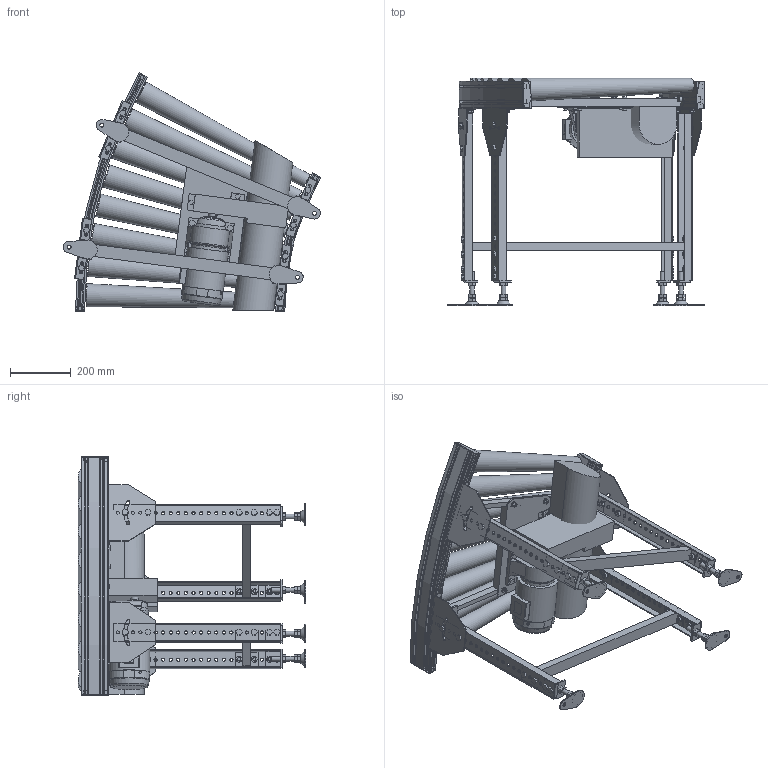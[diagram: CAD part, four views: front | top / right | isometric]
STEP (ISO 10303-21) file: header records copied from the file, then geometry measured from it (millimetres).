
FILE_DESCRIPTION( (''), '2;1');
FILE_NAME ('WEB-MCD1-50-630-75-30°-C9.stp','2026-06-19T11:08:04',(''),(''),'spGate 21.9.5 (****-****-****-****)','','');
FILE_SCHEMA (('AUTOMOTIVE_DESIGN'));
Length unit declared in the file: millimetre
Products named in the file (29): WEB-MCD1-50-630-75-30_-C9; TEMP_X_T-prt0; TEMP_X_T-prt1; TEMP_X_T-prt2; TEMP_X_T-prt3; TEMP_X_T-prt4; TEMP_X_T-prt5; TEMP_X_T-prt6; TEMP_X_T-prt7; TEMP_X_T-prt8; TEMP_X_T-prt9; TEMP_X_T-prt10; TEMP_X_T-prt11; TEMP_X_T-prt12; TEMP_X_T-prt13; TEMP_X_T-prt14; TEMP_X_T-prt15; TEMP_X_T-prt16; TEMP_X_T-prt17; TEMP_X_T-prt18; TEMP_X_T-prt19; TEMP_X_T-prt20; TEMP_X_T-prt21; TEMP_X_T-prt22; TEMP_X_T-prt23; TEMP_X_T-prt24; TEMP_X_T-prt25; TEMP_X_T-prt26; TEMP_X_T-prt27
Assembly tree (28 placements, depth 2):
  WEB-MCD1-50-630-75-30_-C9
    TEMP_X_T-prt0
    TEMP_X_T-prt1
    TEMP_X_T-prt2
    TEMP_X_T-prt3
    TEMP_X_T-prt4
    TEMP_X_T-prt5
    TEMP_X_T-prt6
    TEMP_X_T-prt7
    TEMP_X_T-prt8
    TEMP_X_T-prt9
    TEMP_X_T-prt10
    TEMP_X_T-prt11
    TEMP_X_T-prt12
    TEMP_X_T-prt13
    TEMP_X_T-prt14
    TEMP_X_T-prt15
    TEMP_X_T-prt16
    TEMP_X_T-prt17
    TEMP_X_T-prt18
    TEMP_X_T-prt19
    TEMP_X_T-prt20
    TEMP_X_T-prt21
    TEMP_X_T-prt22
    TEMP_X_T-prt23
    TEMP_X_T-prt24
    TEMP_X_T-prt25
    TEMP_X_T-prt26
    TEMP_X_T-prt27
Bounding box: 847.9 x 750 x 785.6 mm (x, y, z)
Volume: 37318604.2 mm3; surface area: 3541421.4 mm2
Topology: 28 solids, 50 shells, 2201 faces, 5450 edges, 3546 vertices
Faces by surface type: plane 1785, cylinder 385, bspline 31
Full cylindrical faces by diameter (mm): 6 x1, 8 x16, 10 x32, 10.5 x80, 11 x4, 12 x17, 12.2 x2, 12.5 x2, 13 x4, 15.4 x8, 16 x18, 17 x8, 18.4 x28, 18.5 x8, 21 x8, 24 x1, 28 x1, 56 x1, 113.2 x1, 125 x1, 135.411 x1
Entity records: 111750 total; most frequent: CARTESIAN_POINT 13077, DIRECTION 11158, ORIENTED_EDGE 10898, COLOUR_RGB 7678, PRESENTATION_STYLE_ASSIGNMENT 7678, STYLED_ITEM 7678, EDGE_CURVE 5449, DRAUGHTING_PRE_DEFINED_CURVE_FONT 5449
